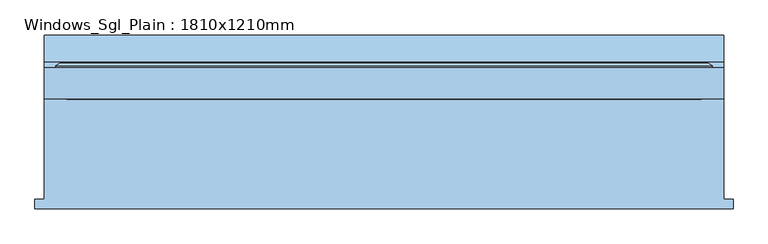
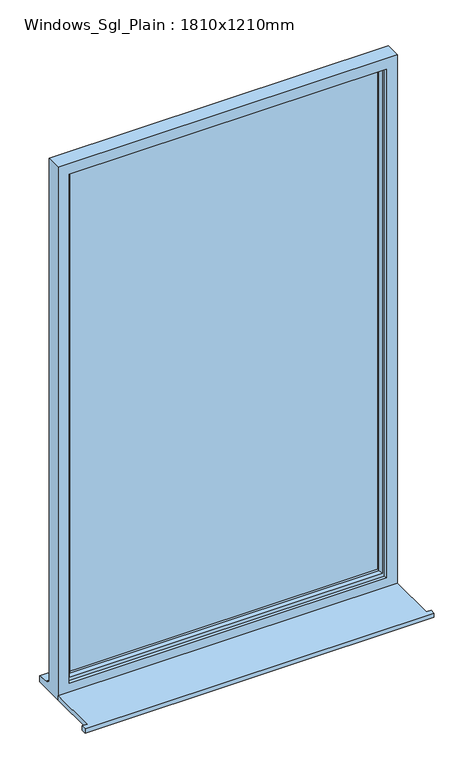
"""IFC4 building model written with IfcOpenShell, lengths in millimetres: window geometry, Windows_Sgl_Plain : 1810x1210mm."""

from ifc_helpers import new_model, si_unit, frame, origin, place, context, project, spatial, polyline, outline, extrude, faceted_brep, source, transform, mapped, element, save


def windows_sgl_plain_1810x1210mm_53e896f1(model_context):
    return source(origin(), model_context, "Body", "SolidModel", [
        extrude(outline(polyline([(-930.0, -216.5434322), (-930.0, -191.5434322), (-905.0, -191.5434322), (-905.0, 75.4565678), (905.0, 75.4565678), (905.0, -191.5434322), (930.0, -191.5434322), (930.0, -216.5434322), (-930.0, -216.5434322)])), frame((0.0, 0.0, -890.0), z_axis=(0.0, 0.0, 1.0), x_axis=(1.0, 0.0, 0.0)), (0.0, 0.0, 1.0), 25.0),
        faceted_brep([(-905.0, 75.4565678, -890.0), (905.0, 75.4565678, -890.0), (905.0, 75.4565678, 2110.0), (-905.0, 75.4565678, 2110.0), (-845.0, 75.4565678, 2050.0), (845.0, 75.4565678, 2050.0), (845.0, 75.4565678, -815.0), (-845.0, 75.4565678, -815.0), (-905.0, 158.4565678, 2110.0), (-905.0, 158.4565678, -839.0), (-905.0, 173.4565678, -840.31233), (-905.0, 173.4565678, -845.2550324), (-905.0, 245.9565678, -856.1911153), (-905.0, 245.9565678, -890.0), (905.0, 158.4565678, 2110.0), (905.0, 158.4565678, -839.0), (-865.0, 158.4565678, 2070.0), (-865.0, 158.4565678, -827.0), (865.0, 158.4565678, -827.0), (865.0, 158.4565678, 2070.0), (-865.0, 93.4565678, 2070.0), (-865.0, 93.4565678, -827.0), (865.0, 93.4565678, 2070.0), (865.0, 93.4565678, -827.0), (-845.0, 93.4565678, 2050.0), (-845.0, 93.4565678, -815.0), (845.0, 93.4565678, -815.0), (845.0, 93.4565678, 2050.0), (905.0, 245.9565678, -890.0), (905.0, 245.9565678, -856.1911153), (905.0, 173.4565678, -845.2550324), (905.0, 173.4565678, -840.31233)], [[[0, 1, 2, 3], [4, 5, 6, 7]], [[0, 3, 8, 9, 10, 11, 12, 13]], [[9, 8, 14, 15], [16, 17, 18, 19]], [[17, 16, 20, 21]], [[20, 22, 23, 21], [24, 25, 26, 27]], [[24, 4, 7, 25]], [[3, 2, 14, 8]], [[16, 19, 22, 20]], [[5, 4, 24, 27]], [[15, 14, 2, 1, 28, 29, 30, 31]], [[19, 18, 23, 22]], [[5, 27, 26, 6]], [[28, 1, 0, 13]], [[29, 28, 13, 12]], [[30, 29, 12, 11]], [[31, 30, 11, 10]], [[15, 31, 10, 9]], [[21, 23, 18, 17]], [[7, 6, 26, 25]]]),
        extrude(outline(polyline([(835.0, 122.4565678), (-835.0, 122.4565678), (-835.0, 146.4565678), (835.0, 146.4565678), (835.0, 122.4565678)])), frame((0.0, 0.0, -797.0), z_axis=(0.0, 0.0, 1.0), x_axis=(1.0, 0.0, 0.0)), (0.0, 0.0, 1.0), 2837.0),
        faceted_brep([(-875.0, 158.4565678, 2080.0), (-875.0, 164.2300705, 2080.0), (-875.0, 164.2300705, -837.0), (-875.0, 158.4565678, -837.0), (-865.0, 93.4565678, 2070.0), (-865.0, 158.4565678, 2070.0), (-865.0, 158.4565678, -827.0), (-865.0, 93.4565678, -827.0), (-825.0, 107.9494677, 2030.0), (-835.1480377, 93.4565678, 2040.1480377), (-835.1480377, 93.4565678, -797.1480377), (-825.0, 107.9494677, -787.0), (-825.0, 122.4565678, 2030.0), (-825.0, 122.4565678, -787.0), (-835.0, 146.4565678, 2040.0), (-835.0, 122.4565678, 2040.0), (-835.0, 122.4565678, -797.0), (-835.0, 146.4565678, -797.0), (-825.0, 164.2300705, 2030.0), (-825.0, 146.4565678, 2030.0), (-825.0, 146.4565678, -787.0), (-825.0, 164.2300705, -787.0), (-842.4457548, 170.0035732, 2047.4457548), (-842.4457548, 170.0035732, -804.4457548), (-864.2153903, 170.0035732, 2069.2153903), (-864.2153903, 170.0035732, -826.2153903), (875.0, 164.2300705, -837.0), (875.0, 158.4565678, -837.0), (865.0, 158.4565678, -827.0), (865.0, 93.4565678, -827.0), (835.1480377, 93.4565678, -797.1480377), (825.0, 107.9494677, -787.0), (825.0, 122.4565678, -787.0), (835.0, 122.4565678, -797.0), (835.0, 146.4565678, -797.0), (825.0, 146.4565678, -787.0), (825.0, 164.2300705, -787.0), (842.4457548, 170.0035732, -804.4457548), (864.2153903, 170.0035732, -826.2153903), (875.0, 164.2300705, 2080.0), (875.0, 158.4565678, 2080.0), (865.0, 158.4565678, 2070.0), (865.0, 93.4565678, 2070.0), (835.1480377, 93.4565678, 2040.1480377), (825.0, 107.9494677, 2030.0), (825.0, 122.4565678, 2030.0), (835.0, 122.4565678, 2040.0), (835.0, 146.4565678, 2040.0), (825.0, 146.4565678, 2030.0), (825.0, 164.2300705, 2030.0), (842.4457548, 170.0035732, 2047.4457548), (864.2153903, 170.0035732, 2069.2153903)], [[[0, 1, 2, 3]], [[4, 5, 6, 7]], [[8, 9, 10, 11]], [[12, 8, 11, 13]], [[14, 15, 16, 17]], [[18, 19, 20, 21]], [[22, 18, 21, 23]], [[1, 24, 25, 2]], [[3, 2, 26, 27]], [[7, 6, 28, 29]], [[11, 10, 30, 31]], [[13, 11, 31, 32]], [[17, 16, 33, 34]], [[21, 20, 35, 36]], [[23, 21, 36, 37]], [[2, 25, 38, 26]], [[27, 26, 39, 40]], [[29, 28, 41, 42]], [[31, 30, 43, 44]], [[32, 31, 44, 45]], [[34, 33, 46, 47]], [[36, 35, 48, 49]], [[37, 36, 49, 50]], [[26, 38, 51, 39]], [[40, 39, 1, 0]], [[3, 27, 40, 0], [5, 41, 28, 6]], [[42, 41, 5, 4]], [[7, 29, 42, 4], [9, 43, 30, 10]], [[44, 43, 9, 8]], [[45, 44, 8, 12]], [[15, 46, 33, 16], [13, 32, 45, 12]], [[47, 46, 15, 14]], [[17, 34, 47, 14], [19, 48, 35, 20]], [[49, 48, 19, 18]], [[50, 49, 18, 22]], [[24, 51, 38, 25], [23, 37, 50, 22]], [[39, 51, 24, 1]]]),
    ])


if __name__ == "__main__":
    model = new_model("IFC4")
    model_context = context("Model", 3, world=origin())
    ifc_project = project(units=[si_unit("LENGTHUNIT", "METRE", prefix="MILLI")], contexts=[model_context])
    site = spatial("IfcSite", under=ifc_project)
    building = spatial("IfcBuilding", under=site)
    placement = place(None, origin())
    windows_sgl_plain_1810x1210mm_shape = windows_sgl_plain_1810x1210mm_53e896f1(model_context)
    element("IfcWindow", 1, ObjectType="Windows_Sgl_Plain : 1810x1210mm", at=placement, inside=building, context=model_context, shape_type="MappedRepresentation", body=[
        mapped(windows_sgl_plain_1810x1210mm_shape, transform((0.0, 0.0, 0.0), x_axis=(1.0, 0.0, 0.0), y_axis=(0.0, 1.0, 0.0), z_axis=(0.0, 0.0, 1.0))),
    ])
    save(model, "model.ifc")
